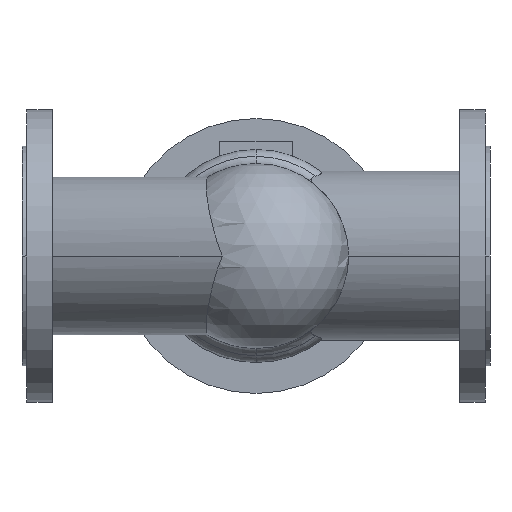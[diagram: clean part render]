
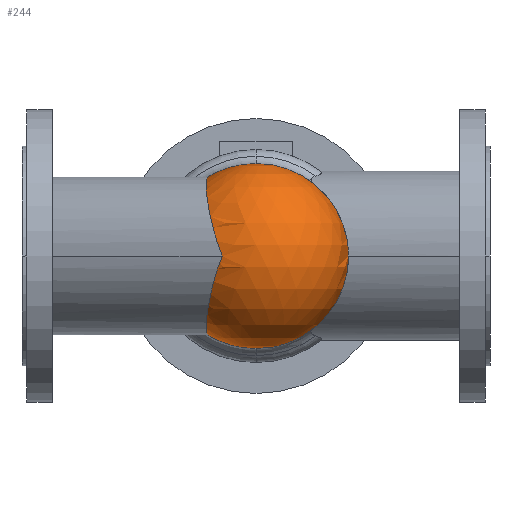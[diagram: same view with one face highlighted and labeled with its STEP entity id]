
A CAD part, front view. The second image highlights one B-rep face of the part: STEP entity #244.
In plain terms, the highlighted spherical face has radius 79 mm.
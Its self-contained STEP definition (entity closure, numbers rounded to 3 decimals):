
#244 = ADVANCED_FACE( '', ( #653 ), #654, .T. );
#653 = FACE_OUTER_BOUND( '', #1118, .T. );
#654 = SPHERICAL_SURFACE( '', #1119, 79. );
#1118 = EDGE_LOOP( '', ( #2609, #2610, #2611, #2612, #2613, #2614 ) );
#1119 = AXIS2_PLACEMENT_3D( '', #2615, #2616, #2617 );
#2609 = ORIENTED_EDGE( '', *, *, #2944, .F. );
#2610 = ORIENTED_EDGE( '', *, *, #3005, .F. );
#2611 = ORIENTED_EDGE( '', *, *, #3004, .F. );
#2612 = ORIENTED_EDGE( '', *, *, #3402, .F. );
#2613 = ORIENTED_EDGE( '', *, *, #3403, .F. );
#2614 = ORIENTED_EDGE( '', *, *, #3404, .F. );
#2615 = CARTESIAN_POINT( '', ( 200., -56., 0. ) );
#2616 = DIRECTION( '', ( 0., 0., 1. ) );
#2617 = DIRECTION( '', ( 1., 0., 0. ) );
#2944 = EDGE_CURVE( '', #3528, #3514, #3530, .T. );
#3004 = EDGE_CURVE( '', #3644, #3646, #3647, .T. );
#3005 = EDGE_CURVE( '', #3646, #3528, #3648, .T. );
#3402 = EDGE_CURVE( '', #4293, #3644, #4294, .T. );
#3403 = EDGE_CURVE( '', #4295, #4293, #4296, .T. );
#3404 = EDGE_CURVE( '', #3514, #4295, #4297, .T. );
#3514 = VERTEX_POINT( '', #4427 );
#3528 = VERTEX_POINT( '', #4519 );
#3530 = B_SPLINE_CURVE_WITH_KNOTS( '', 3, ( #4540, #4541, #4542, #4543, #4544, #4545, #4546, #4547, #4548, #4549, #4550, #4551, #4552, #4553, #4554, #4555, #4556, #4557, #4558, #4559, #4560, #4561, #4562, #4563, #4564, #4565, #4566, #4567, #4568, #4569, #4570, #4571, #4572, #4573, #4574, #4575, #4576, #4577 ), .UNSPECIFIED., .F., .F., ( 4, 2, 2, 2, 2, 2, 2, 2, 2, 2, 2, 2, 2, 2, 2, 2, 2, 2, 4 ), ( 318.392, 321.368, 328.025, 334.681, 341.338, 347.994, 354.651, 361.307, 367.964, 374.836, 381.708, 388.58, 395.453, 402.325, 409.197, 416.07, 419.506, 422.942, 422.957 ), .UNSPECIFIED. );
#3644 = VERTEX_POINT( '', #4880 );
#3646 = VERTEX_POINT( '', #4883 );
#3647 = CIRCLE( '', #4884, 79. );
#3648 = CIRCLE( '', #4885, 79. );
#4293 = VERTEX_POINT( '', #6113 );
#4294 = CIRCLE( '', #6114, 79. );
#4295 = VERTEX_POINT( '', #6115 );
#4296 = CIRCLE( '', #6116, 79. );
#4297 = B_SPLINE_CURVE_WITH_KNOTS( '', 3, ( #6117, #6118, #6119, #6120, #6121, #6122, #6123, #6124, #6125, #6126, #6127, #6128, #6129, #6130, #6131, #6132, #6133, #6134, #6135, #6136, #6137, #6138, #6139, #6140, #6141, #6142, #6143, #6144, #6145, #6146, #6147, #6148, #6149, #6150, #6151, #6152, #6153, #6154 ), .UNSPECIFIED., .F., .F., ( 4, 2, 2, 2, 2, 2, 2, 2, 2, 2, 2, 2, 2, 2, 2, 2, 2, 2, 4 ), ( 0., 0.015, 3.452, 6.888, 13.76, 20.632, 27.504, 34.377, 41.249, 48.121, 54.994, 61.65, 68.307, 74.963, 81.62, 88.276, 94.933, 101.589, 104.565 ), .UNSPECIFIED. );
#4427 = CARTESIAN_POINT( '', ( 171.104, -129.526, 0. ) );
#4519 = CARTESIAN_POINT( '', ( 158.761, -56., -67.382 ) );
#4540 = CARTESIAN_POINT( '', ( 158.761, -56., -67.382 ) );
#4541 = CARTESIAN_POINT( '', ( 158.678, -57.005, -67.331 ) );
#4542 = CARTESIAN_POINT( '', ( 158.597, -58.015, -67.259 ) );
#4543 = CARTESIAN_POINT( '', ( 158.346, -61.298, -66.956 ) );
#4544 = CARTESIAN_POINT( '', ( 158.189, -63.586, -66.638 ) );
#4545 = CARTESIAN_POINT( '', ( 157.914, -68.159, -65.783 ) );
#4546 = CARTESIAN_POINT( '', ( 157.797, -70.445, -65.244 ) );
#4547 = CARTESIAN_POINT( '', ( 157.612, -74.973, -63.951 ) );
#4548 = CARTESIAN_POINT( '', ( 157.544, -77.217, -63.197 ) );
#4549 = CARTESIAN_POINT( '', ( 157.462, -81.626, -61.485 ) );
#4550 = CARTESIAN_POINT( '', ( 157.449, -83.793, -60.528 ) );
#4551 = CARTESIAN_POINT( '', ( 157.483, -88.017, -58.428 ) );
#4552 = CARTESIAN_POINT( '', ( 157.53, -90.075, -57.286 ) );
#4553 = CARTESIAN_POINT( '', ( 157.685, -94.05, -54.846 ) );
#4554 = CARTESIAN_POINT( '', ( 157.793, -95.968, -53.548 ) );
#4555 = CARTESIAN_POINT( '', ( 158.071, -99.64, -50.831 ) );
#4556 = CARTESIAN_POINT( '', ( 158.24, -101.393, -49.412 ) );
#4557 = CARTESIAN_POINT( '', ( 158.64, -104.768, -46.447 ) );
#4558 = CARTESIAN_POINT( '', ( 158.881, -106.446, -44.844 ) );
#4559 = CARTESIAN_POINT( '', ( 159.444, -109.691, -41.461 ) );
#4560 = CARTESIAN_POINT( '', ( 159.765, -111.257, -39.681 ) );
#4561 = CARTESIAN_POINT( '', ( 160.494, -114.242, -35.972 ) );
#4562 = CARTESIAN_POINT( '', ( 160.901, -115.66, -34.042 ) );
#4563 = CARTESIAN_POINT( '', ( 161.801, -118.322, -30.063 ) );
#4564 = CARTESIAN_POINT( '', ( 162.295, -119.565, -28.014 ) );
#4565 = CARTESIAN_POINT( '', ( 163.367, -121.856, -23.832 ) );
#4566 = CARTESIAN_POINT( '', ( 163.946, -122.905, -21.698 ) );
#4567 = CARTESIAN_POINT( '', ( 165.184, -124.795, -17.381 ) );
#4568 = CARTESIAN_POINT( '', ( 165.844, -125.636, -15.198 ) );
#4569 = CARTESIAN_POINT( '', ( 167.235, -127.106, -10.825 ) );
#4570 = CARTESIAN_POINT( '', ( 167.968, -127.735, -8.635 ) );
#4571 = CARTESIAN_POINT( '', ( 169.111, -128.522, -5.375 ) );
#4572 = CARTESIAN_POINT( '', ( 169.5, -128.758, -4.293 ) );
#4573 = CARTESIAN_POINT( '', ( 170.29, -129.178, -2.142 ) );
#4574 = CARTESIAN_POINT( '', ( 170.692, -129.363, -1.074 ) );
#4575 = CARTESIAN_POINT( '', ( 171.1, -129.524, -0.01 ) );
#4576 = CARTESIAN_POINT( '', ( 171.103, -129.525, -0.005 ) );
#4577 = CARTESIAN_POINT( '', ( 171.104, -129.526, 0. ) );
#4880 = CARTESIAN_POINT( '', ( 279., -56., 0. ) );
#4883 = CARTESIAN_POINT( '', ( 200., -56., -79. ) );
#4884 = AXIS2_PLACEMENT_3D( '', #6444, #6445, #6446 );
#4885 = AXIS2_PLACEMENT_3D( '', #6447, #6448, #6449 );
#6113 = CARTESIAN_POINT( '', ( 200., -56., 79. ) );
#6114 = AXIS2_PLACEMENT_3D( '', #7190, #7191, #7192 );
#6115 = CARTESIAN_POINT( '', ( 158.761, -56., 67.382 ) );
#6116 = AXIS2_PLACEMENT_3D( '', #7193, #7194, #7195 );
#6117 = CARTESIAN_POINT( '', ( 171.104, -129.526, 0. ) );
#6118 = CARTESIAN_POINT( '', ( 171.103, -129.525, 0.005 ) );
#6119 = CARTESIAN_POINT( '', ( 171.1, -129.524, 0.01 ) );
#6120 = CARTESIAN_POINT( '', ( 170.692, -129.363, 1.074 ) );
#6121 = CARTESIAN_POINT( '', ( 170.29, -129.178, 2.142 ) );
#6122 = CARTESIAN_POINT( '', ( 169.5, -128.758, 4.293 ) );
#6123 = CARTESIAN_POINT( '', ( 169.111, -128.522, 5.375 ) );
#6124 = CARTESIAN_POINT( '', ( 167.968, -127.735, 8.635 ) );
#6125 = CARTESIAN_POINT( '', ( 167.235, -127.106, 10.825 ) );
#6126 = CARTESIAN_POINT( '', ( 165.844, -125.636, 15.198 ) );
#6127 = CARTESIAN_POINT( '', ( 165.184, -124.795, 17.381 ) );
#6128 = CARTESIAN_POINT( '', ( 163.946, -122.905, 21.698 ) );
#6129 = CARTESIAN_POINT( '', ( 163.367, -121.856, 23.832 ) );
#6130 = CARTESIAN_POINT( '', ( 162.295, -119.565, 28.014 ) );
#6131 = CARTESIAN_POINT( '', ( 161.801, -118.322, 30.063 ) );
#6132 = CARTESIAN_POINT( '', ( 160.901, -115.66, 34.042 ) );
#6133 = CARTESIAN_POINT( '', ( 160.494, -114.242, 35.972 ) );
#6134 = CARTESIAN_POINT( '', ( 159.765, -111.257, 39.681 ) );
#6135 = CARTESIAN_POINT( '', ( 159.444, -109.691, 41.461 ) );
#6136 = CARTESIAN_POINT( '', ( 158.881, -106.446, 44.844 ) );
#6137 = CARTESIAN_POINT( '', ( 158.64, -104.768, 46.447 ) );
#6138 = CARTESIAN_POINT( '', ( 158.24, -101.393, 49.412 ) );
#6139 = CARTESIAN_POINT( '', ( 158.071, -99.64, 50.831 ) );
#6140 = CARTESIAN_POINT( '', ( 157.793, -95.968, 53.548 ) );
#6141 = CARTESIAN_POINT( '', ( 157.685, -94.05, 54.846 ) );
#6142 = CARTESIAN_POINT( '', ( 157.53, -90.075, 57.286 ) );
#6143 = CARTESIAN_POINT( '', ( 157.483, -88.017, 58.428 ) );
#6144 = CARTESIAN_POINT( '', ( 157.449, -83.793, 60.528 ) );
#6145 = CARTESIAN_POINT( '', ( 157.462, -81.626, 61.485 ) );
#6146 = CARTESIAN_POINT( '', ( 157.544, -77.217, 63.197 ) );
#6147 = CARTESIAN_POINT( '', ( 157.612, -74.973, 63.951 ) );
#6148 = CARTESIAN_POINT( '', ( 157.797, -70.445, 65.244 ) );
#6149 = CARTESIAN_POINT( '', ( 157.914, -68.159, 65.783 ) );
#6150 = CARTESIAN_POINT( '', ( 158.189, -63.586, 66.638 ) );
#6151 = CARTESIAN_POINT( '', ( 158.346, -61.298, 66.956 ) );
#6152 = CARTESIAN_POINT( '', ( 158.597, -58.015, 67.259 ) );
#6153 = CARTESIAN_POINT( '', ( 158.678, -57.005, 67.331 ) );
#6154 = CARTESIAN_POINT( '', ( 158.761, -56., 67.382 ) );
#6444 = CARTESIAN_POINT( '', ( 200., -56., 0. ) );
#6445 = DIRECTION( '', ( 0., 1., 0. ) );
#6446 = DIRECTION( '', ( 1., 0., 0. ) );
#6447 = CARTESIAN_POINT( '', ( 200., -56., 0. ) );
#6448 = DIRECTION( '', ( 0., 1., 0. ) );
#6449 = DIRECTION( '', ( 1., 0., 0. ) );
#7190 = CARTESIAN_POINT( '', ( 200., -56., 0. ) );
#7191 = DIRECTION( '', ( 0., 1., 0. ) );
#7192 = DIRECTION( '', ( 1., 0., 0. ) );
#7193 = CARTESIAN_POINT( '', ( 200., -56., 0. ) );
#7194 = DIRECTION( '', ( 0., 1., 0. ) );
#7195 = DIRECTION( '', ( 1., 0., 0. ) );
